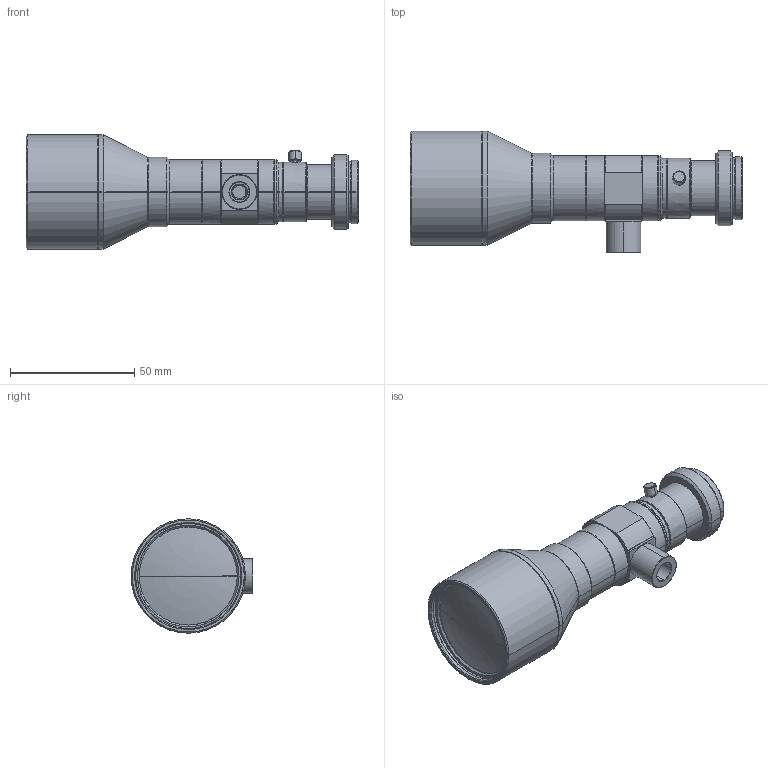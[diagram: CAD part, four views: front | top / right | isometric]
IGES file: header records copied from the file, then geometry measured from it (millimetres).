
Start section: SolidWorks IGES file using analytic representation for surfaces
Bounding box: 133.47 x 49 x 46 mm (x, y, z)
Surface area: 20388.3 mm2 (no closed solid volume)
Topology: 0 solids, 0 shells, 212 faces, 2582 edges, 2580 vertices
Faces by surface type: revolution 170, bspline 42
